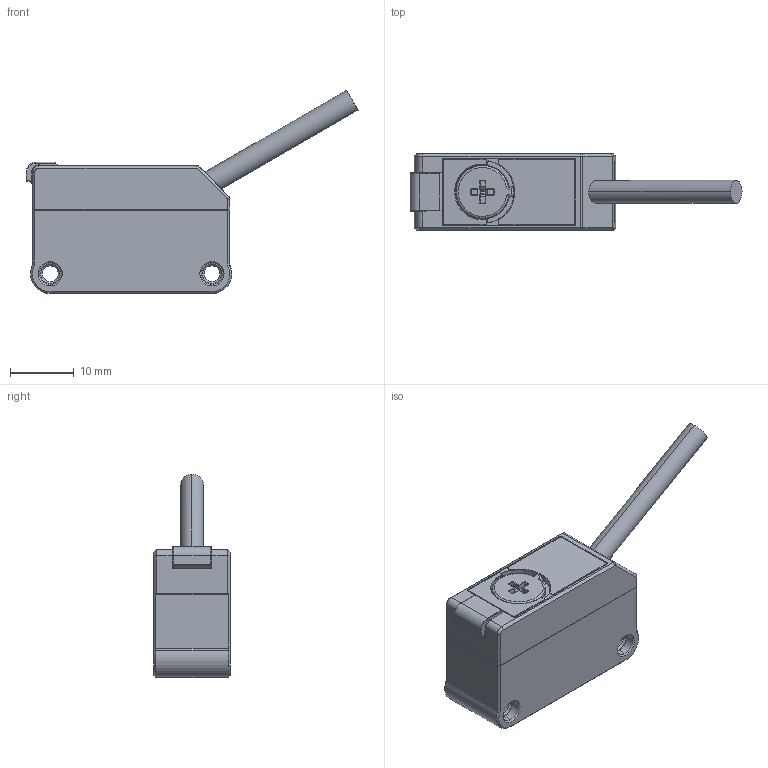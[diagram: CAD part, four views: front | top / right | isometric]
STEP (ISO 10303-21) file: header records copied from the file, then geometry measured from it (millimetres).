
FILE_DESCRIPTION((''),'2;1');
FILE_NAME('00','2023-02-09T20:27:04',('wangyijun6'),(''),'CREO PARAMETRIC BY PTC INC, 2017260','CREO PARAMETRIC BY PTC INC, 2017260','');
FILE_SCHEMA(('CONFIG_CONTROL_DESIGN'));
Length unit declared in the file: millimetre
Products named in the file (1): 00
Bounding box: 52.12 x 12 x 31.9 mm (x, y, z)
Volume: 7338.9 mm3; surface area: 4467.8 mm2
Topology: 1 solids, 9 shells, 414 faces, 1095 edges, 708 vertices
Faces by surface type: plane 170, cylinder 111, cone 87, torus 22, bspline 21, sphere 3
Entity records: 13868 total; most frequent: CARTESIAN_POINT 3702, ORIENTED_EDGE 2176, DIRECTION 2045, EDGE_CURVE 1092, AXIS2_PLACEMENT_3D 748, VERTEX_POINT 708, VECTOR 549, LINE 549
